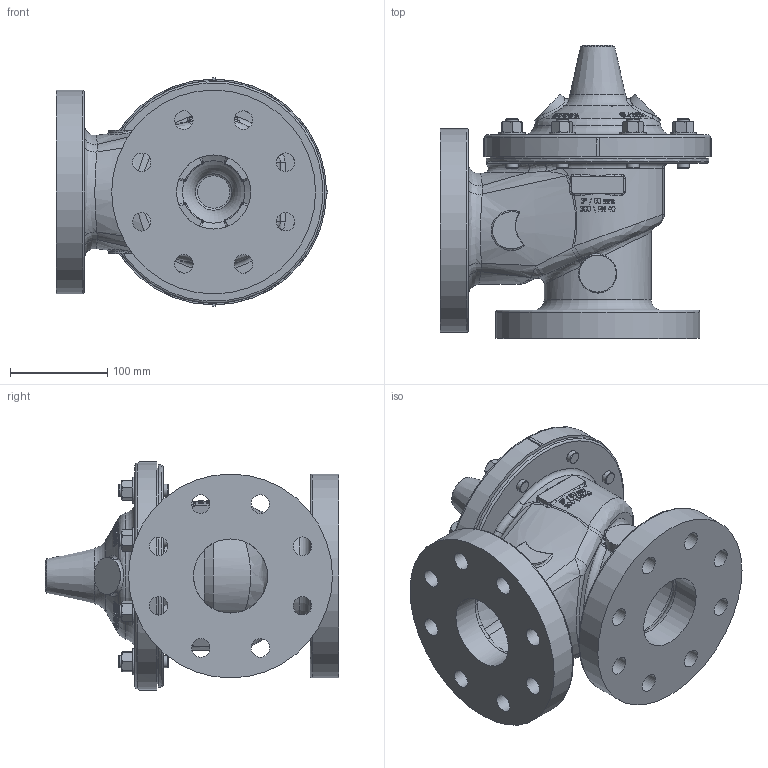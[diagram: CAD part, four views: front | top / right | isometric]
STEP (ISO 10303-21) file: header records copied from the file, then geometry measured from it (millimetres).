
FILE_DESCRIPTION(/* description */ (''),/* implementation_level */ '2;1');
FILE_NAME(/* name */ 'G:\Doc_Liberes\SymbolesCAD\Modeles_3D\FichierSTP\VanneDeBase\AE080-40FF.stp',/* time_stamp */ '2023-08-18T08:52:12+02:00',/* author */ ('theo'),/* organization */ (''),/* preprocessor_version */ 'ST-DEVELOPER v18.1',/* originating_system */ 'Autodesk Inventor 2022',/* authorisation */ '');
FILE_SCHEMA (('AUTOMOTIVE_DESIGN { 1 0 10303 214 3 1 1 }'));
Products named in the file (1): AE080-40FF_Simplifier_1
Bounding box: 279.49 x 301.2 x 234.98 mm (x, y, z)
Volume: 3650203.2 mm3; surface area: 556452.8 mm2
Topology: 1 solids, 1 shells, 1334 faces, 3479 edges, 2214 vertices
Faces by surface type: plane 521, bspline 328, cone 309, cylinder 135, torus 39, sphere 2
Full cylindrical faces by diameter (mm): 12.7 x22, 19 x16, 26.975 x8, 33.3 x1, 38 x2, 76.2 x2, 87.17 x1, 94.26 x1, 108.2 x2, 110 x1, 209.55 x2, 221.8 x1, 228.6 x1, 232 x1
Entity records: 53584 total; most frequent: CARTESIAN_POINT 24669, ORIENTED_EDGE 6936, DIRECTION 4941, EDGE_CURVE 3468, VERTEX_POINT 2214, AXIS2_PLACEMENT_3D 2074, EDGE_LOOP 1462, FACE_OUTER_BOUND 1334
